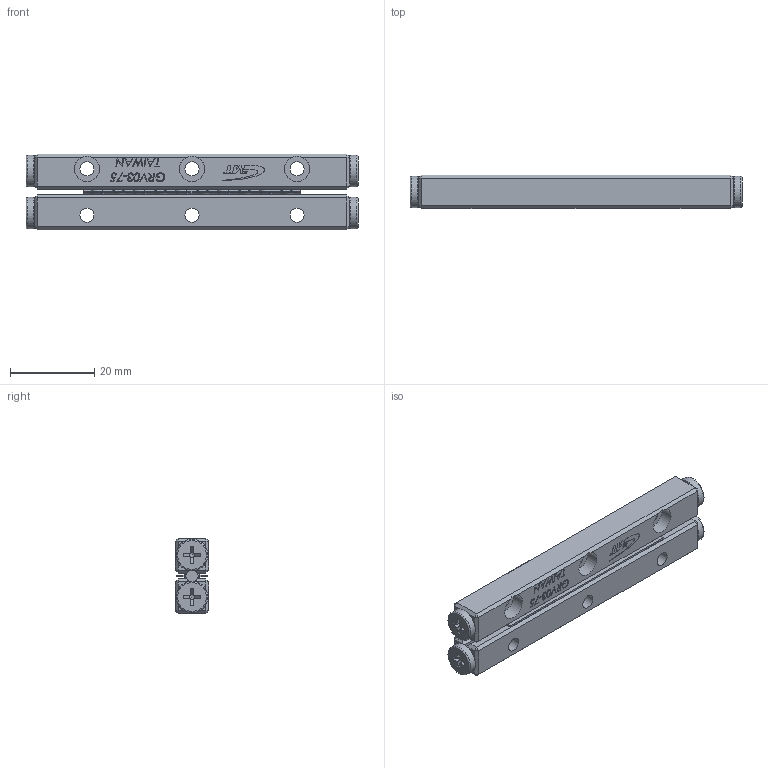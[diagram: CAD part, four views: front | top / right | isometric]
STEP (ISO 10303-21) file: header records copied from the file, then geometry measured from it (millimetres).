
FILE_DESCRIPTION (( 'STEP AP203' ), '1' );
FILE_NAME ('GRV03-75.STEP', '2023-10-11T02:58:05', ( '' ), ( '' ), 'SwSTEP 2.0', 'SolidWorks 2019', '' );
FILE_SCHEMA (( 'CONFIG_CONTROL_DESIGN' ));
Length unit declared in the file: millimetre
Products named in the file (3): GRVP03-75-模糊化保持器組; GRV03-75; GRV03-75-模糊化軌道
Assembly tree (3 placements, depth 2):
  GRV03-75
    GRV03-75-模糊化軌道  x2
    GRVP03-75-模糊化保持器組
Bounding box: 79 x 8 x 18 mm (x, y, z)
Volume: 9373.4 mm3; surface area: 7248.5 mm2
Topology: 3 solids, 3 shells, 846 faces, 2116 edges, 1360 vertices
Faces by surface type: plane 596, bspline 110, cylinder 76, cone 36, torus 28
Full cylindrical faces by diameter (mm): 3.35 x6, 6 x6, 7.5 x4
Entity records: 18207 total; most frequent: CARTESIAN_POINT 6271, ORIENTED_EDGE 2520, DIRECTION 2105, EDGE_CURVE 1260, VECTOR 859, LINE 859, VERTEX_POINT 821, AXIS2_PLACEMENT_3D 623
